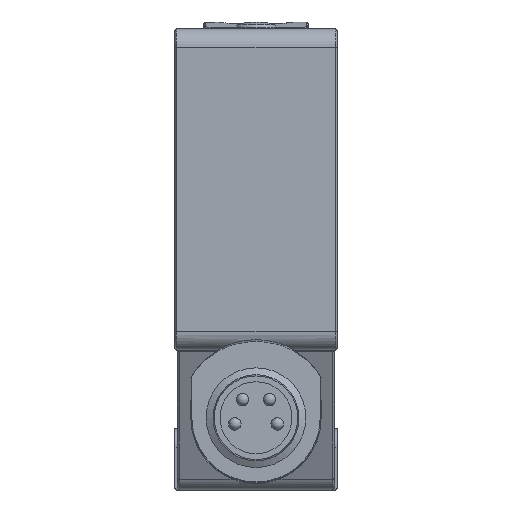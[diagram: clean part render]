
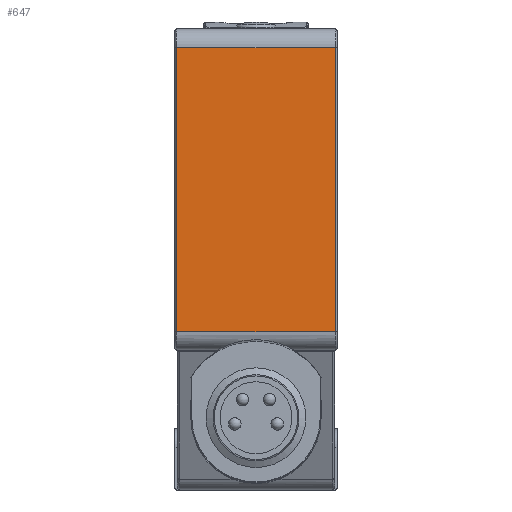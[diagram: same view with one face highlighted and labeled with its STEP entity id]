
A CAD part, left-side view. The second image highlights one B-rep face of the part: STEP entity #647.
In plain terms, the highlighted planar face has unit normal (-1, 0, 0).
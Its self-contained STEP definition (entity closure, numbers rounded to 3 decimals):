
#647 = ADVANCED_FACE( '', ( #1384 ), #1385, .F. );
#1384 = FACE_OUTER_BOUND( '', #2506, .T. );
#1385 = PLANE( '', #2507 );
#2506 = EDGE_LOOP( '', ( #4502, #4503, #4504, #4505 ) );
#2507 = AXIS2_PLACEMENT_3D( '', #4506, #4507, #4508 );
#4502 = ORIENTED_EDGE( '', *, *, #6107, .T. );
#4503 = ORIENTED_EDGE( '', *, *, #6108, .T. );
#4504 = ORIENTED_EDGE( '', *, *, #6109, .T. );
#4505 = ORIENTED_EDGE( '', *, *, #6110, .T. );
#4506 = CARTESIAN_POINT( '', ( -34.5, 6.5, 0.6 ) );
#4507 = DIRECTION( '', ( 1., 0., 0. ) );
#4508 = DIRECTION( '', ( 0., 0., 1. ) );
#6107 = EDGE_CURVE( '', #7362, #7363, #7364, .F. );
#6108 = EDGE_CURVE( '', #7363, #6782, #7365, .F. );
#6109 = EDGE_CURVE( '', #6782, #7071, #7366, .T. );
#6110 = EDGE_CURVE( '', #7071, #7362, #7367, .T. );
#6782 = VERTEX_POINT( '', #8246 );
#7071 = VERTEX_POINT( '', #8814 );
#7362 = VERTEX_POINT( '', #9291 );
#7363 = VERTEX_POINT( '', #9292 );
#7364 = LINE( '', #9293, #9294 );
#7365 = LINE( '', #9295, #9296 );
#7366 = LINE( '', #9297, #9298 );
#7367 = LINE( '', #9299, #9300 );
#8246 = CARTESIAN_POINT( '', ( -34.5, 6.35, 2.1 ) );
#8814 = CARTESIAN_POINT( '', ( -34.5, -6.35, 2.1 ) );
#9291 = CARTESIAN_POINT( '', ( -34.5, -6.35, 24.9 ) );
#9292 = CARTESIAN_POINT( '', ( -34.5, 6.35, 24.9 ) );
#9293 = CARTESIAN_POINT( '', ( -34.5, 6.5, 24.9 ) );
#9294 = VECTOR( '', #10645, 1000. );
#9295 = CARTESIAN_POINT( '', ( -34.5, 6.35, 2.1 ) );
#9296 = VECTOR( '', #10646, 1000. );
#9297 = CARTESIAN_POINT( '', ( -34.5, 6.5, 2.1 ) );
#9298 = VECTOR( '', #10647, 1000. );
#9299 = CARTESIAN_POINT( '', ( -34.5, -6.35, 0.6 ) );
#9300 = VECTOR( '', #10648, 1000. );
#10645 = DIRECTION( '', ( 0., -1., 0. ) );
#10646 = DIRECTION( '', ( 0., 0., 1. ) );
#10647 = DIRECTION( '', ( 0., -1., 0. ) );
#10648 = DIRECTION( '', ( 0., 0., 1. ) );
